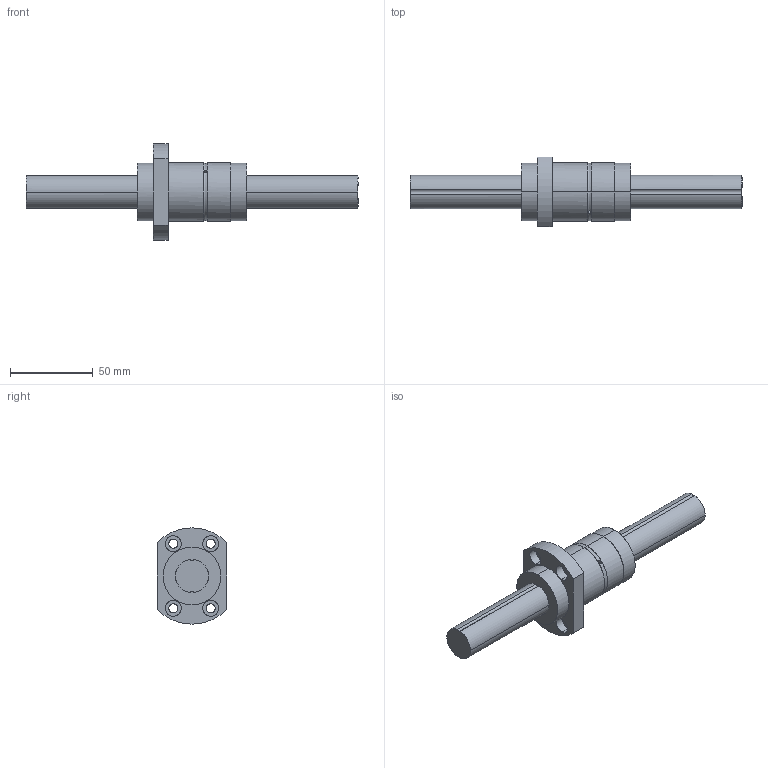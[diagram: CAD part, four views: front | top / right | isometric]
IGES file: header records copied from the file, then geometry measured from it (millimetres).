
Global section: file name: No Iges File Name specified; native system: AutoDesk Inventor R11.0; preprocessor: AutoDesk Inventor Iges Exporter R11.0; author: No Author specified; organization: No Organization specified; date: 20150223.133642; units: millimetre
Bounding box: 200 x 42 x 58 mm (x, y, z)
Surface area: 29880.3 mm2 (no closed solid volume)
Topology: 0 solids, 0 shells, 57 faces, 396 edges, 396 vertices
Faces by surface type: bspline 57
